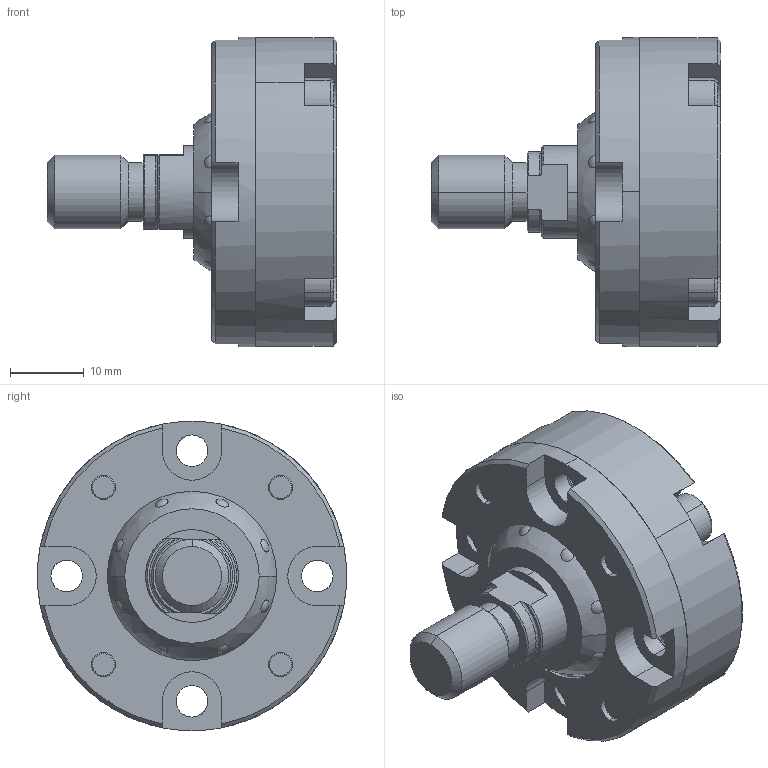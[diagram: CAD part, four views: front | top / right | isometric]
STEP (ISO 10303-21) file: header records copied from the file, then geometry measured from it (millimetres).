
FILE_DESCRIPTION (( 'STEP AP214' ), '1' );
FILE_NAME ('SRJS012C Assy.STEP', '2025-07-14T07:30:26', ( '' ), ( '' ), 'SwSTEP 2.0', 'SolidWorks 2023', '' );
FILE_SCHEMA (( 'AUTOMOTIVE_DESIGN' ));
Length unit declared in the file: millimetre
Products named in the file (1): SRJS012C Assy
Bounding box: 39.3 x 42 x 42 mm (x, y, z)
Volume: 23201.5 mm3; surface area: 13092.3 mm2
Topology: 7 solids, 7 shells, 341 faces, 917 edges, 604 vertices
Faces by surface type: cylinder 193, plane 84, cone 34, sphere 16, bspline 12, torus 2
Entity records: 20160 total; most frequent: CARTESIAN_POINT 12128, ORIENTED_EDGE 1814, DIRECTION 1529, EDGE_CURVE 907, VERTEX_POINT 600, AXIS2_PLACEMENT_3D 587, EDGE_LOOP 397, VECTOR 355
